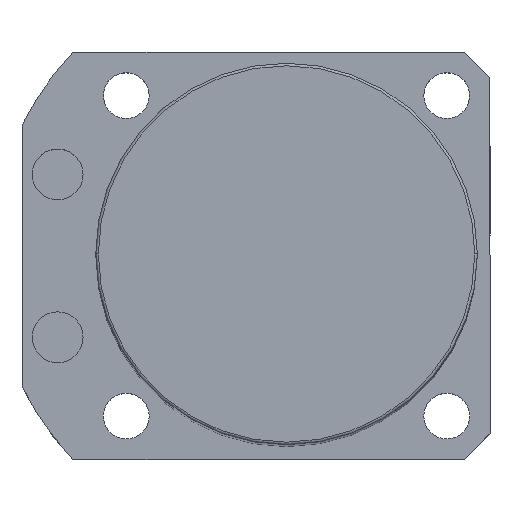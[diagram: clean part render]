
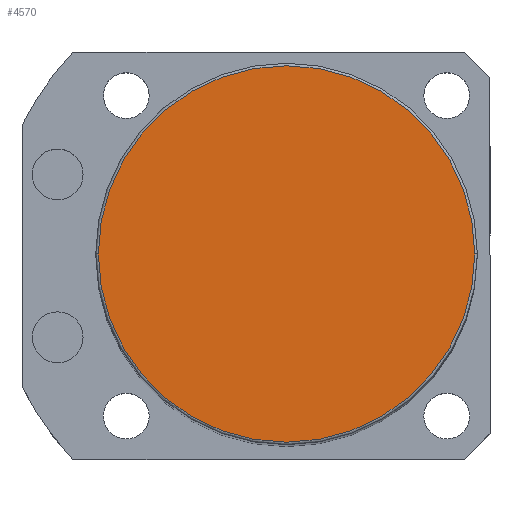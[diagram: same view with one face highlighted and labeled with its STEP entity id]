
A CAD part, top view. The second image highlights one B-rep face of the part: STEP entity #4570.
In plain terms, the highlighted planar face has unit normal (0, 0, 1).
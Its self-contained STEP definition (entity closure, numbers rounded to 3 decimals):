
#301 = DIRECTION ( 'NONE',  ( 0., 0., 1. ) ) ;
#1360 = CARTESIAN_POINT ( 'NONE',  ( 0., 0., 230.5 ) ) ;
#1556 = CARTESIAN_POINT ( 'NONE',  ( 0., 0., 230.5 ) ) ;
#1604 = AXIS2_PLACEMENT_3D ( 'NONE', #1556, #4113, #5658 ) ;
#1913 = EDGE_CURVE ( 'NONE', #2985, #4292, #4048, .T. ) ;
#2255 = ORIENTED_EDGE ( 'NONE', *, *, #6073, .T. ) ;
#2651 = AXIS2_PLACEMENT_3D ( 'NONE', #1360, #301, #6469 ) ;
#2985 = VERTEX_POINT ( 'NONE', #5378 ) ;
#3125 = EDGE_LOOP ( 'NONE', ( #2255, #3979 ) ) ;
#3979 = ORIENTED_EDGE ( 'NONE', *, *, #1913, .T. ) ;
#4048 = CIRCLE ( 'NONE', #1604, 37. ) ;
#4113 = DIRECTION ( 'NONE',  ( 0., 0., 1. ) ) ;
#4279 = CARTESIAN_POINT ( 'NONE',  ( 37., 0., 230.5 ) ) ;
#4292 = VERTEX_POINT ( 'NONE', #4279 ) ;
#4427 = PLANE ( 'NONE',  #2651 ) ;
#4469 = DIRECTION ( 'NONE',  ( 1., 0., 0. ) ) ;
#4570 = ADVANCED_FACE ( 'NONE', ( #5267 ), #4427, .T. ) ;
#4940 = CARTESIAN_POINT ( 'NONE',  ( 0., 0., 230.5 ) ) ;
#5141 = AXIS2_PLACEMENT_3D ( 'NONE', #4940, #5525, #4469 ) ;
#5267 = FACE_OUTER_BOUND ( 'NONE', #3125, .T. ) ;
#5378 = CARTESIAN_POINT ( 'NONE',  ( -37., 0., 230.5 ) ) ;
#5429 = CIRCLE ( 'NONE', #5141, 37. ) ;
#5525 = DIRECTION ( 'NONE',  ( 0., 0., 1. ) ) ;
#5658 = DIRECTION ( 'NONE',  ( 1., 0., 0. ) ) ;
#6073 = EDGE_CURVE ( 'NONE', #4292, #2985, #5429, .T. ) ;
#6469 = DIRECTION ( 'NONE',  ( 1., 0., 0. ) ) ;
